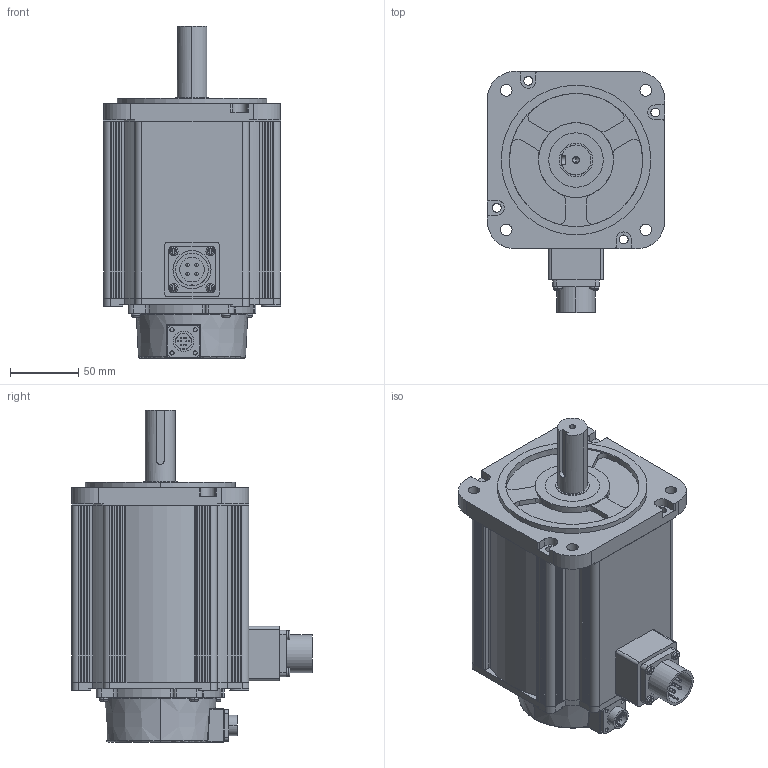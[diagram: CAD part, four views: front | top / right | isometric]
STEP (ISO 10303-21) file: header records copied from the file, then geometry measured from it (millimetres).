
FILE_DESCRIPTION (( 'STEP AP203' ), '1' );
FILE_NAME ('130E-14615.STEP', '2024-09-05T11:20:13', ( '' ), ( '' ), 'SwSTEP 2.0', 'SolidWorks 2018', '' );
FILE_SCHEMA (( 'CONFIG_CONTROL_DESIGN' ));
Length unit declared in the file: millimetre
Products named in the file (10): 130A綴裔潠謹; 儂褲-14.6N.M; 130E-14615; 橈勤硉晤鎢ん誘欶  S13E.10-01; 130Aǰ; 蚐猾; 130A諉盄釱-1; 堤粣; SC-CMV1-R10P-E; 18-10
Assembly tree (9 placements, depth 2):
  130E-14615
    130A綴裔潠謹
    130A諉盄釱-1
    130Aǰ
    儂褲-14.6N.M
    堤粣
    蚐猾
    18-10
    SC-CMV1-R10P-E
    橈勤硉晤鎢ん誘欶  S13E.10-01
Bounding box: 130.2 x 176.9 x 244 mm (x, y, z)
Volume: 751350.1 mm3; surface area: 321965.1 mm2
Topology: 9 solids, 13 shells, 925 faces, 2474 edges, 1616 vertices
Faces by surface type: plane 520, cylinder 330, torus 45, sphere 12, cone 10, bspline 8
Entity records: 30852 total; most frequent: CARTESIAN_POINT 6072, DIRECTION 5044, ORIENTED_EDGE 4892, EDGE_CURVE 2446, AXIS2_PLACEMENT_3D 1710, VECTOR 1624, LINE 1624, VERTEX_POINT 1604
